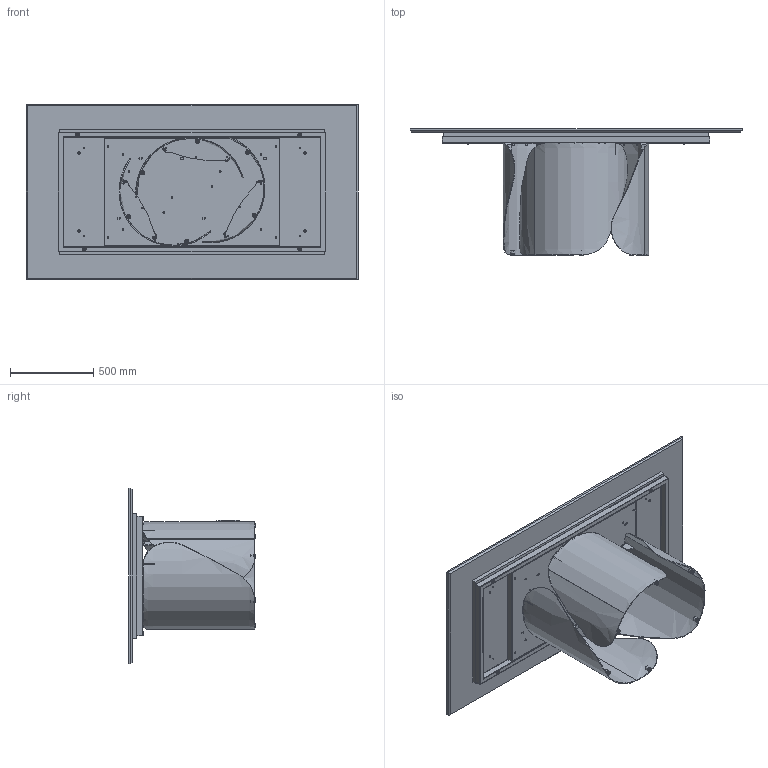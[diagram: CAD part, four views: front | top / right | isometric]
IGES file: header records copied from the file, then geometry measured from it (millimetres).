
Start section: SolidWorks IGES file using analytic representation for surfaces
Global section: file name: Y:\eforma\TECNICO\SOLIDWORKS\E-FORMA\1-TAVOLI\ONDA\02 parts\ON21M.IGS; native system: SolidWorks 2022; preprocessor: SolidWorks 2022; author: eforma.tech; date: 240806.155049; units: millimetre
Bounding box: 2000 x 761 x 1060 mm (x, y, z)
Volume: 84961661 mm3; surface area: 13137956.1 mm2
Topology: 60 solids, 60 shells, 1769 faces, 4043 edges, 2401 vertices
Faces by surface type: revolution 1077, plane 632, bspline 60
